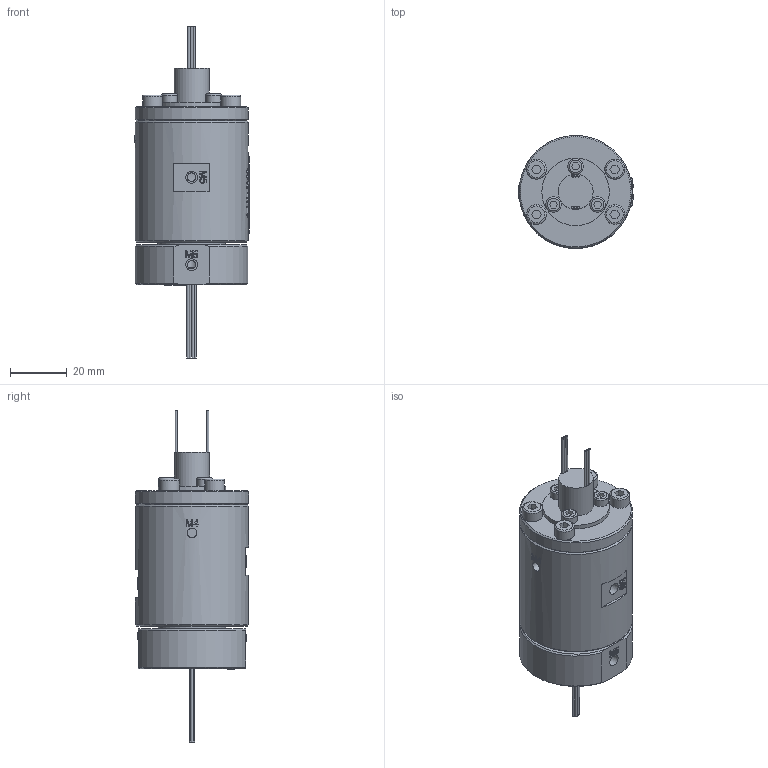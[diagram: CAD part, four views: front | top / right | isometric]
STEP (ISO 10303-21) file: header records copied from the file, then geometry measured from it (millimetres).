
FILE_DESCRIPTION(/* description */ (''),/* implementation_level */ '2;1');
FILE_NAME(/* name */ 'HQ02005-06M.stp',/* time_stamp */ '2025-09-01T09:50:56+08:00',/* author */ (''),/* organization */ (''),/* preprocessor_version */ 'ST-DEVELOPER v16.7',/* originating_system */ 'SIEMENS PLM Software NX 12.0',/* authorisation */ '');
FILE_SCHEMA (('AUTOMOTIVE_DESIGN { 1 0 10303 214 3 1 1 1 }'));
Length unit declared in the file: millimetre
Products named in the file (1): Admi1DF097DFvvss
Bounding box: 40.68 x 40 x 117.5 mm (x, y, z)
Volume: 79449.8 mm3; surface area: 16789.4 mm2
Topology: 1 solids, 12 shells, 1037 faces, 2746 edges, 1827 vertices
Faces by surface type: plane 483, extrusion 385, cylinder 88, bspline 42, cone 32, torus 7
Full cylindrical faces by diameter (mm): 0.8 x18, 2.5 x3, 3 x7, 3.4 x9, 4 x6, 4.1 x2, 4.2 x6, 4.5 x4, 5 x1, 5.5 x3, 6 x2, 7 x4, 12.4 x1, 23.9 x1, 24 x1, 32 x1, 40 x2
Entity records: 38086 total; most frequent: CARTESIAN_POINT 16184, ORIENTED_EDGE 5168, DIRECTION 2843, EDGE_CURVE 2584, B_SPLINE_CURVE_WITH_KNOTS 2082, VERTEX_POINT 1777, EDGE_LOOP 1269, ADVANCED_FACE 1037
